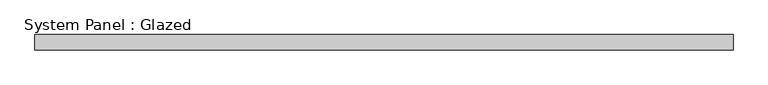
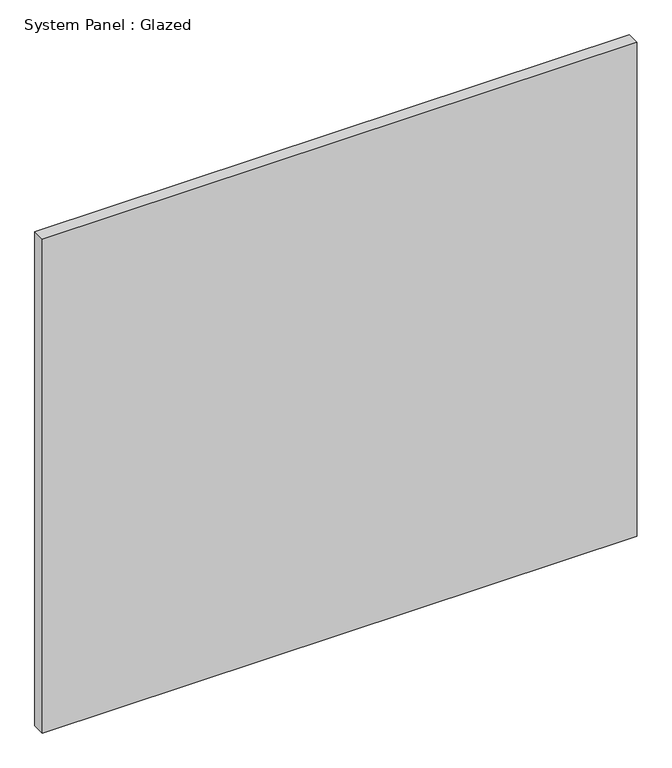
"""IFC4 building model written with IfcOpenShell, lengths in millimetres: plate geometry, System Panel : Glazed."""

from ifc_helpers import new_model, si_unit, origin, origin_with_axes, place, context, project, spatial, polyline, outline, extrude, source, transform, mapped, element, save


def system_panel_glazed_d710f7e0(model_context):
    return source(origin(), model_context, "Body", "SweptSolid", [
        extrude(outline(polyline([(570.0859005, 24.5), (-570.0859005, 24.5), (-570.0859005, 49.5), (570.0859005, 49.5), (570.0859005, 24.5)])), origin_with_axes(), (0.0, 0.0, 1.0), 1000.0),
    ])


if __name__ == "__main__":
    model = new_model("IFC4")
    model_context = context("Model", 3, world=origin())
    ifc_project = project(units=[si_unit("LENGTHUNIT", "METRE", prefix="MILLI")], contexts=[model_context])
    site = spatial("IfcSite", under=ifc_project)
    building = spatial("IfcBuilding", under=site)
    placement = place(None, origin())
    system_panel_glazed_shape = system_panel_glazed_d710f7e0(model_context)
    element("IfcPlate", 1, ObjectType="System Panel : Glazed", at=placement, inside=building, context=model_context, shape_type="MappedRepresentation", body=[
        mapped(system_panel_glazed_shape, transform((0.0, 0.0, 0.0), x_axis=(1.0, 0.0, 0.0), y_axis=(0.0, 1.0, 0.0), z_axis=(0.0, 0.0, 1.0))),
    ])
    save(model, "model.ifc")
